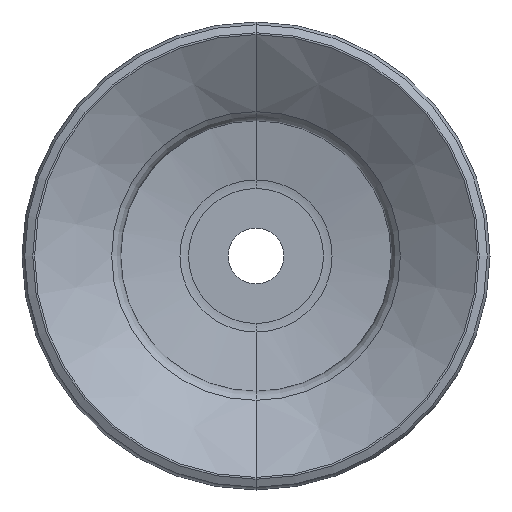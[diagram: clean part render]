
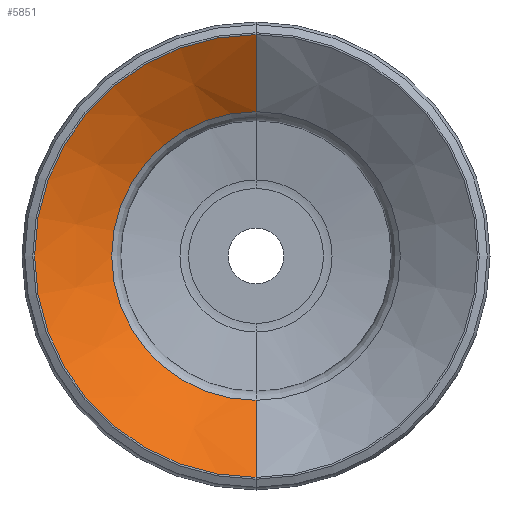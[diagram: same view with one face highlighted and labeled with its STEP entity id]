
A CAD part, front view. The second image highlights one B-rep face of the part: STEP entity #5851.
In plain terms, the highlighted conical face has half-angle 56.172 degrees and reference radius 23.731 mm.
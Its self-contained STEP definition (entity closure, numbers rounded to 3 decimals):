
#29 = DIRECTION ( 'NONE',  ( 0., -0.557, -0.831 ) ) ;
#38 = ORIENTED_EDGE ( 'NONE', *, *, #524, .T. ) ;
#392 = CARTESIAN_POINT ( 'NONE',  ( 0., -50.914, -23.731 ) ) ;
#524 = EDGE_CURVE ( 'NONE', #928, #2999, #3542, .T. ) ;
#594 = AXIS2_PLACEMENT_3D ( 'NONE', #4328, #6609, #1537 ) ;
#928 = VERTEX_POINT ( 'NONE', #1083 ) ;
#1015 = DIRECTION ( 'NONE',  ( 0., 0., 1. ) ) ;
#1017 = ORIENTED_EDGE ( 'NONE', *, *, #5007, .F. ) ;
#1083 = CARTESIAN_POINT ( 'NONE',  ( 0., -45.377, -15.469 ) ) ;
#1194 = LINE ( 'NONE', #8534, #6587 ) ;
#1326 = CARTESIAN_POINT ( 'NONE',  ( 0., -45.377, 15.469 ) ) ;
#1510 = CARTESIAN_POINT ( 'NONE',  ( 0., -50.914, -23.731 ) ) ;
#1537 = DIRECTION ( 'NONE',  ( 0., 0., -1. ) ) ;
#1651 = ORIENTED_EDGE ( 'NONE', *, *, #3407, .T. ) ;
#1920 = EDGE_LOOP ( 'NONE', ( #38, #1651, #1017, #9484 ) ) ;
#2032 = DIRECTION ( 'NONE',  ( 0., 0., 1. ) ) ;
#2969 = CARTESIAN_POINT ( 'NONE',  ( 0., -45.377, 0. ) ) ;
#2999 = VERTEX_POINT ( 'NONE', #1326 ) ;
#3346 = AXIS2_PLACEMENT_3D ( 'NONE', #2969, #6054, #1015 ) ;
#3407 = EDGE_CURVE ( 'NONE', #2999, #9432, #1194, .T. ) ;
#3542 = CIRCLE ( 'NONE', #3346, 15.469 ) ;
#4238 = DIRECTION ( 'NONE',  ( 0., 1., 0. ) ) ;
#4328 = CARTESIAN_POINT ( 'NONE',  ( 0., -50.914, 0. ) ) ;
#5007 = EDGE_CURVE ( 'NONE', #8238, #9432, #7766, .T. ) ;
#5423 = LINE ( 'NONE', #1510, #6239 ) ;
#5851 = ADVANCED_FACE ( 'NONE', ( #7647 ), #8224, .F. ) ;
#5901 = EDGE_CURVE ( 'NONE', #928, #8238, #5423, .T. ) ;
#6054 = DIRECTION ( 'NONE',  ( 0., 1., 0. ) ) ;
#6239 = VECTOR ( 'NONE', #29, 1000. ) ;
#6395 = CARTESIAN_POINT ( 'NONE',  ( 0., -50.914, 23.731 ) ) ;
#6451 = CARTESIAN_POINT ( 'NONE',  ( 0., -50.914, 0. ) ) ;
#6587 = VECTOR ( 'NONE', #9392, 1000. ) ;
#6609 = DIRECTION ( 'NONE',  ( 0., -1., 0. ) ) ;
#7647 = FACE_OUTER_BOUND ( 'NONE', #1920, .T. ) ;
#7766 = CIRCLE ( 'NONE', #8159, 23.731 ) ;
#8159 = AXIS2_PLACEMENT_3D ( 'NONE', #6451, #4238, #2032 ) ;
#8224 = CONICAL_SURFACE ( 'NONE', #594, 23.731, 0.98 ) ;
#8238 = VERTEX_POINT ( 'NONE', #392 ) ;
#8534 = CARTESIAN_POINT ( 'NONE',  ( 0., -50.914, 23.731 ) ) ;
#9392 = DIRECTION ( 'NONE',  ( 0., -0.557, 0.831 ) ) ;
#9432 = VERTEX_POINT ( 'NONE', #6395 ) ;
#9484 = ORIENTED_EDGE ( 'NONE', *, *, #5901, .F. ) ;
